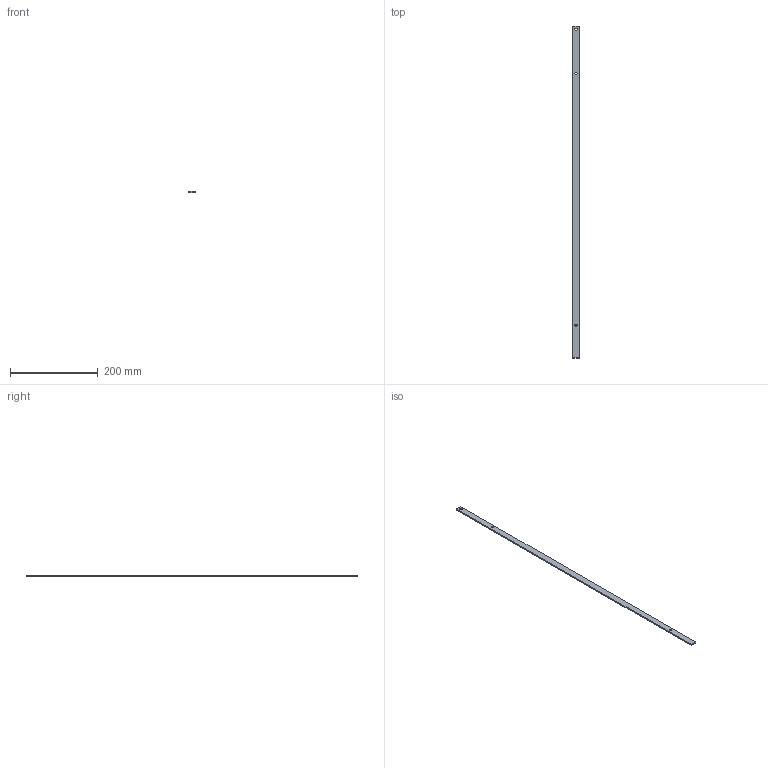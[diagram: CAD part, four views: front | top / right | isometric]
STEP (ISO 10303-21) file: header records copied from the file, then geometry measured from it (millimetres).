
FILE_DESCRIPTION (( 'STEP AP214' ), '1' );
FILE_NAME ('P28-751.STEP', '2012-01-25T10:52:53', ( 'Techniczny' ), ( 'RST Roztocze' ), 'SwSTEP 2.0', 'SolidWorks 2010', '' );
FILE_SCHEMA (( 'AUTOMOTIVE_DESIGN' ));
Length unit declared in the file: millimetre
Products named in the file (1): P28-751
Bounding box: 14 x 758.5 x 3 mm (x, y, z)
Volume: 31667.9 mm3; surface area: 25893 mm2
Topology: 1 solids, 1 shells, 12 faces, 30 edges, 20 vertices
Faces by surface type: cylinder 6, plane 6
Entity records: 412 total; most frequent: DIRECTION 68, CARTESIAN_POINT 63, ORIENTED_EDGE 60, EDGE_CURVE 30, AXIS2_PLACEMENT_3D 25, VERTEX_POINT 20, EDGE_LOOP 18, LINE 18
